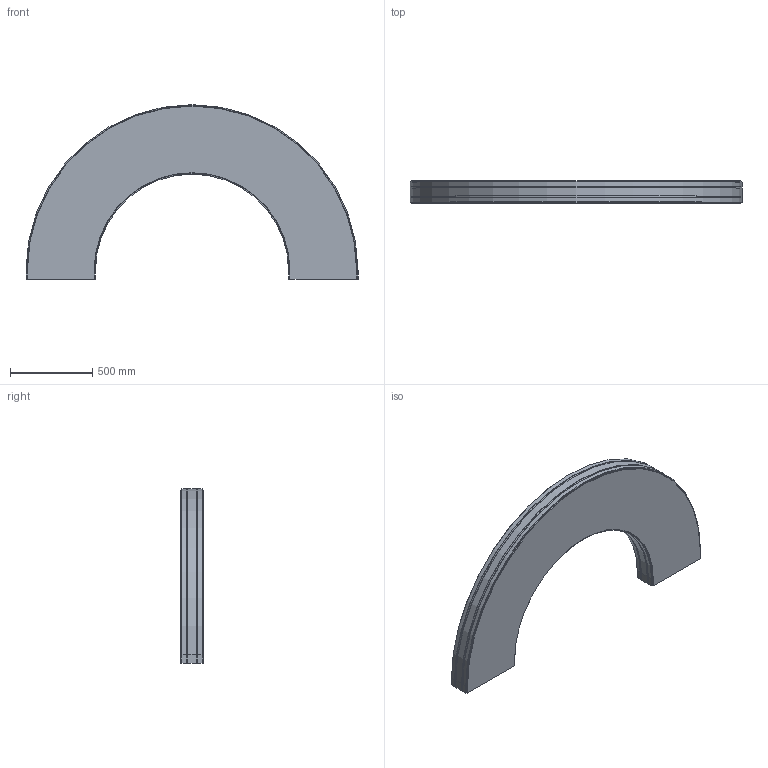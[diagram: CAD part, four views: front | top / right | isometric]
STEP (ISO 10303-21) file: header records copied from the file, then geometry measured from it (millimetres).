
FILE_DESCRIPTION (( 'STEP AP214' ), '1' );
FILE_NAME ('FS-MTC2-150-INOX horizontaalbocht.420 180°.STEP', '2017-02-08T12:40:36', ( '' ), ( '' ), 'SwSTEP 2.0', 'SolidWorks 2016', '' );
FILE_SCHEMA (( 'AUTOMOTIVE_DESIGN' ));
Length unit declared in the file: millimetre
Products named in the file (1): FS-MTC2-150-INOX horizontaalbocht.420 180°
Bounding box: 2023 x 136.5 x 1064 mm (x, y, z)
Volume: 150366697.4 mm3; surface area: 3097073.6 mm2
Topology: 1 solids, 1 shells, 74 faces, 216 edges, 144 vertices
Faces by surface type: plane 56, cylinder 18
Entity records: 2470 total; most frequent: CARTESIAN_POINT 435, ORIENTED_EDGE 432, DIRECTION 402, EDGE_CURVE 216, VECTOR 180, LINE 180, VERTEX_POINT 144, AXIS2_PLACEMENT_3D 111
